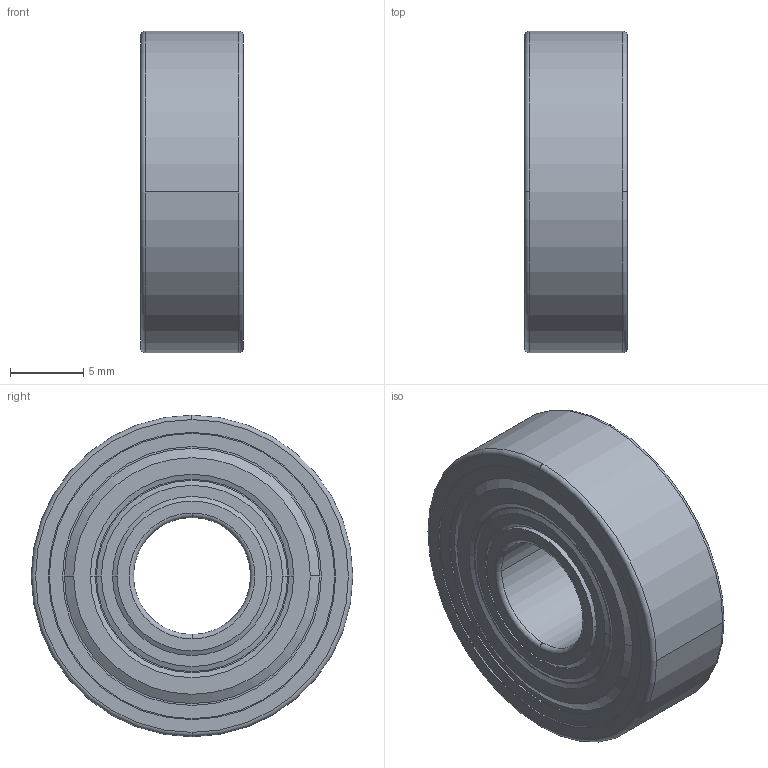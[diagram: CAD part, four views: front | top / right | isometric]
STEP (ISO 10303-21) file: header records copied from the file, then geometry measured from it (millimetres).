
FILE_DESCRIPTION(('FreeCAD Model'),'2;1');
FILE_NAME('Open CASCADE Shape Model','2021-04-30T14:17:11',(''),(''), 'Open CASCADE STEP processor 7.5','FreeCAD','Unknown');
FILE_SCHEMA(('AUTOMOTIVE_DESIGN { 1 0 10303 214 1 1 1 1 }'));
Length unit declared in the file: millimetre
Products named in the file (6): snr_608zz_0_006; snr_608zz_0_1; snr_608zz_0_002; snr_608zz_0_003; snr_608zz_0_004; snr_608zz_0_005
Assembly tree (5 placements, depth 2):
  snr_608zz_0_006
    snr_608zz_0_1
    snr_608zz_0_002
    snr_608zz_0_003
    snr_608zz_0_004
    snr_608zz_0_005
Bounding box: 7 x 22 x 22 mm (x, y, z)
Volume: 1948.1 mm3; surface area: 3769.7 mm2
Topology: 5 solids, 5 shells, 118 faces, 264 edges, 172 vertices
Faces by surface type: torus 36, cone 32, plane 26, cylinder 24
Entity records: 7170 total; most frequent: CARTESIAN_POINT 1436, DIRECTION 1190, ORIENTED_EDGE 528, PCURVE 528, DEFINITIONAL_REPRESENTATION 528, LINE 468, VECTOR 468, AXIS2_PLACEMENT_3D 332
